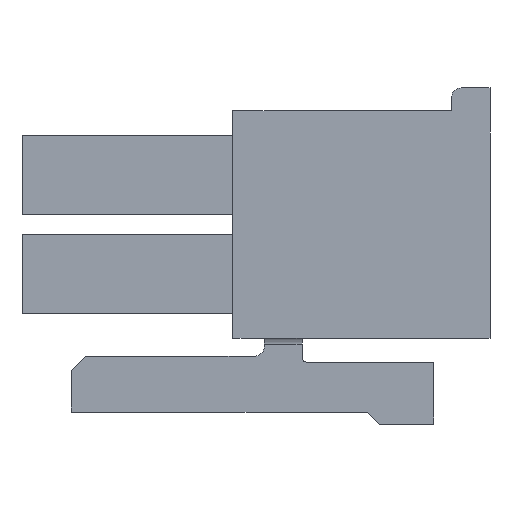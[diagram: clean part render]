
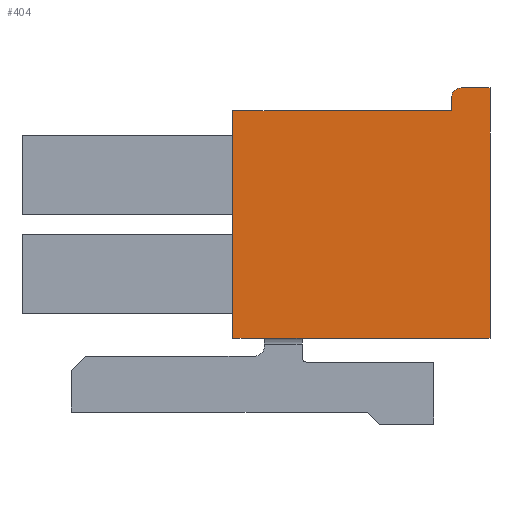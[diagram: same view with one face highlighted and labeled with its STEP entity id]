
A CAD part, left-side view. The second image highlights one B-rep face of the part: STEP entity #404.
In plain terms, the highlighted planar face has unit normal (-1, 0, 0).
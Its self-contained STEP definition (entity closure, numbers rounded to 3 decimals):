
#43 = EDGE_LOOP ( 'NONE', ( #1355, #987, #986, #1356, #969, #988, #1002, #1020, #1021 ) ) ;
#247 = PLANE ( 'NONE',  #1415 ) ;
#249 = CARTESIAN_POINT ( 'NONE',  ( 5.495, -4.15, -4.15 ) ) ;
#253 = FACE_OUTER_BOUND ( 'NONE', #43, .T. ) ;
#255 = DIRECTION ( 'NONE',  ( -1., 0., 0. ) ) ;
#256 = DIRECTION ( 'NONE',  ( 0., 0., 1. ) ) ;
#345 = LINE ( 'NONE', #347, #1451 ) ;
#347 = CARTESIAN_POINT ( 'NONE',  ( 5.495, -0.25, -3.45 ) ) ;
#348 = DIRECTION ( 'NONE',  ( 0., 1., 0. ) ) ;
#350 = LINE ( 'NONE', #501, #1458 ) ;
#357 = LINE ( 'NONE', #359, #1448 ) ;
#359 = CARTESIAN_POINT ( 'NONE',  ( 5.495, -0.25, 3.45 ) ) ;
#404 = ADVANCED_FACE ( 'NONE', ( #253 ), #247, .T. ) ;
#426 = EDGE_CURVE ( 'NONE', #1216, #1225, #345, .T. ) ;
#430 = EDGE_CURVE ( 'NONE', #1215, #1286, #357, .T. ) ;
#433 = EDGE_CURVE ( 'NONE', #1285, #1280, #491, .T. ) ;
#435 = EDGE_CURVE ( 'NONE', #1225, #1285, #497, .T. ) ;
#436 = EDGE_CURVE ( 'NONE', #1216, #1278, #350, .T. ) ;
#441 = EDGE_CURVE ( 'NONE', #1267, #1264, #1328, .T. ) ;
#446 = EDGE_CURVE ( 'NONE', #1280, #1286, #530, .T. ) ;
#449 = EDGE_CURVE ( 'NONE', #1267, #1278, #539, .T. ) ;
#457 = EDGE_CURVE ( 'NONE', #1215, #1264, #563, .T. ) ;
#485 = DIRECTION ( 'NONE',  ( 0., 1., 0. ) ) ;
#491 = LINE ( 'NONE', #492, #1460 ) ;
#492 = CARTESIAN_POINT ( 'NONE',  ( 5.495, -0.25, -3.45 ) ) ;
#493 = DIRECTION ( 'NONE',  ( 0., 1., 0. ) ) ;
#497 = LINE ( 'NONE', #499, #1462 ) ;
#499 = CARTESIAN_POINT ( 'NONE',  ( 5.495, -0.25, -3.45 ) ) ;
#500 = DIRECTION ( 'NONE',  ( 0., 1., 0. ) ) ;
#501 = CARTESIAN_POINT ( 'NONE',  ( 5.495, -4.15, 0. ) ) ;
#502 = DIRECTION ( 'NONE',  ( 0., 0., 1. ) ) ;
#517 = CARTESIAN_POINT ( 'NONE',  ( 5.495, -3.28, 3.85 ) ) ;
#518 = DIRECTION ( 'NONE',  ( -1., 0., 0. ) ) ;
#519 = DIRECTION ( 'NONE',  ( 0., -1., 0. ) ) ;
#530 = LINE ( 'NONE', #532, #1340 ) ;
#532 = CARTESIAN_POINT ( 'NONE',  ( 5.495, 3.65, 0. ) ) ;
#533 = DIRECTION ( 'NONE',  ( 0., 0., 1. ) ) ;
#539 = LINE ( 'NONE', #541, #1326 ) ;
#541 = CARTESIAN_POINT ( 'NONE',  ( 5.495, -3.715, 4.15 ) ) ;
#542 = DIRECTION ( 'NONE',  ( 0., -1., 0. ) ) ;
#563 = LINE ( 'NONE', #565, #1333 ) ;
#565 = CARTESIAN_POINT ( 'NONE',  ( 5.495, -2.98, 3.65 ) ) ;
#566 = DIRECTION ( 'NONE',  ( 0., 0., 1. ) ) ;
#648 = CARTESIAN_POINT ( 'NONE',  ( 5.495, -2.98, 3.45 ) ) ;
#649 = CARTESIAN_POINT ( 'NONE',  ( 5.495, -4.15, -3.45 ) ) ;
#658 = CARTESIAN_POINT ( 'NONE',  ( 5.495, 1.55, -3.45 ) ) ;
#668 = CARTESIAN_POINT ( 'NONE',  ( 5.495, -2.98, 3.85 ) ) ;
#671 = CARTESIAN_POINT ( 'NONE',  ( 5.495, -3.28, 4.15 ) ) ;
#682 = CARTESIAN_POINT ( 'NONE',  ( 5.495, -4.15, 4.15 ) ) ;
#684 = CARTESIAN_POINT ( 'NONE',  ( 5.495, 3.65, -3.45 ) ) ;
#689 = CARTESIAN_POINT ( 'NONE',  ( 5.495, 2.7, -3.45 ) ) ;
#690 = CARTESIAN_POINT ( 'NONE',  ( 5.495, 3.65, 3.45 ) ) ;
#969 = ORIENTED_EDGE ( 'NONE', *, *, #457, .F. ) ;
#986 = ORIENTED_EDGE ( 'NONE', *, *, #449, .F. ) ;
#987 = ORIENTED_EDGE ( 'NONE', *, *, #436, .T. ) ;
#988 = ORIENTED_EDGE ( 'NONE', *, *, #430, .T. ) ;
#1002 = ORIENTED_EDGE ( 'NONE', *, *, #446, .F. ) ;
#1020 = ORIENTED_EDGE ( 'NONE', *, *, #433, .F. ) ;
#1021 = ORIENTED_EDGE ( 'NONE', *, *, #435, .F. ) ;
#1215 = VERTEX_POINT ( 'NONE', #648 ) ;
#1216 = VERTEX_POINT ( 'NONE', #649 ) ;
#1225 = VERTEX_POINT ( 'NONE', #658 ) ;
#1264 = VERTEX_POINT ( 'NONE', #668 ) ;
#1267 = VERTEX_POINT ( 'NONE', #671 ) ;
#1278 = VERTEX_POINT ( 'NONE', #682 ) ;
#1280 = VERTEX_POINT ( 'NONE', #684 ) ;
#1285 = VERTEX_POINT ( 'NONE', #689 ) ;
#1286 = VERTEX_POINT ( 'NONE', #690 ) ;
#1326 = VECTOR ( 'NONE', #542, 1000. ) ;
#1328 = CIRCLE ( 'NONE', #1343, 0.3 ) ;
#1333 = VECTOR ( 'NONE', #566, 1000. ) ;
#1340 = VECTOR ( 'NONE', #533, 1000. ) ;
#1343 = AXIS2_PLACEMENT_3D ( 'NONE', #517, #518, #519 ) ;
#1355 = ORIENTED_EDGE ( 'NONE', *, *, #426, .F. ) ;
#1356 = ORIENTED_EDGE ( 'NONE', *, *, #441, .T. ) ;
#1415 = AXIS2_PLACEMENT_3D ( 'NONE', #249, #255, #256 ) ;
#1448 = VECTOR ( 'NONE', #485, 1000. ) ;
#1451 = VECTOR ( 'NONE', #348, 1000. ) ;
#1458 = VECTOR ( 'NONE', #502, 1000. ) ;
#1460 = VECTOR ( 'NONE', #493, 1000. ) ;
#1462 = VECTOR ( 'NONE', #500, 1000. ) ;
